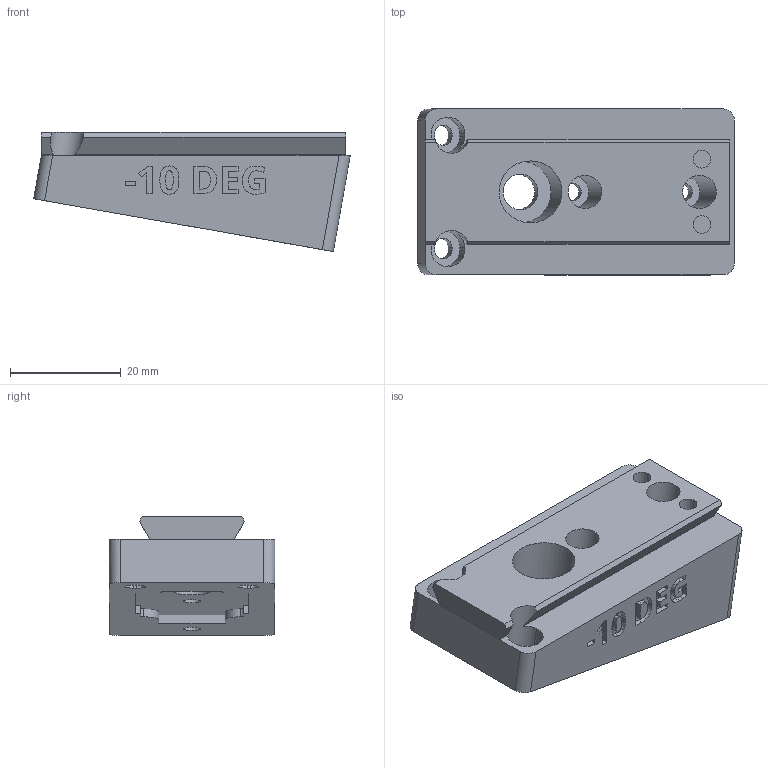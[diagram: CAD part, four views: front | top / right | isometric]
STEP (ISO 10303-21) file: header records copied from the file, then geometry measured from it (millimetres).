
FILE_DESCRIPTION(/* description */ ('STEP AP242 Edition 2','CAx-IF Rec.Pracs.---Representation and Presentation of Product Manufacturing Information (PMI)---4.0---2014-10-13','CAx-IF Rec.Pracs.---3D Tessellated Geometry---0.4---2014-09-14','2;1','CAx-IF Rec.Pracs.---User Defined Attributes---1.5---2016-08-15'),/* implementation_level */ '2;1');
FILE_NAME(/* name */ 'Camera Wedges - CAMERA MOUNTING WEDGE, NEG, -10 DEG',/* time_stamp */ '2026-08-11T00:06:11Z',/* author */ (''),/* organization */ (''),/* preprocessor_version */ 'ST-DEVELOPER v20',/* originating_system */ 'ONSHAPE BY PTC INC, 1.219',/* authorisation */ ' ');
FILE_SCHEMA (('AP242_MANAGED_MODEL_BASED_3D_ENGINEERING_MIM_LF { 1 0 10303 442 3 1 4 }'));
Length unit declared in the file: metre
Products named in the file (1): CAMERA MOUNTING WEDGE, NEG, -10 DEG
Bounding box: 57.24 x 30 x 21.53 mm (x, y, z)
Volume: 21563.4 mm3; surface area: 7924.3 mm2
Topology: 1 solids, 1 shells, 239 faces, 643 edges, 428 vertices
Faces by surface type: plane 141, bspline 62, cylinder 36
Full cylindrical faces by diameter (mm): 3.2 x4, 6 x2, 6.4 x1, 11.2 x1
Entity records: 7655 total; most frequent: CARTESIAN_POINT 1985, ORIENTED_EDGE 1270, DIRECTION 951, EDGE_CURVE 635, VERTEX_POINT 428, LINE 427, VECTOR 427, EDGE_LOOP 279
